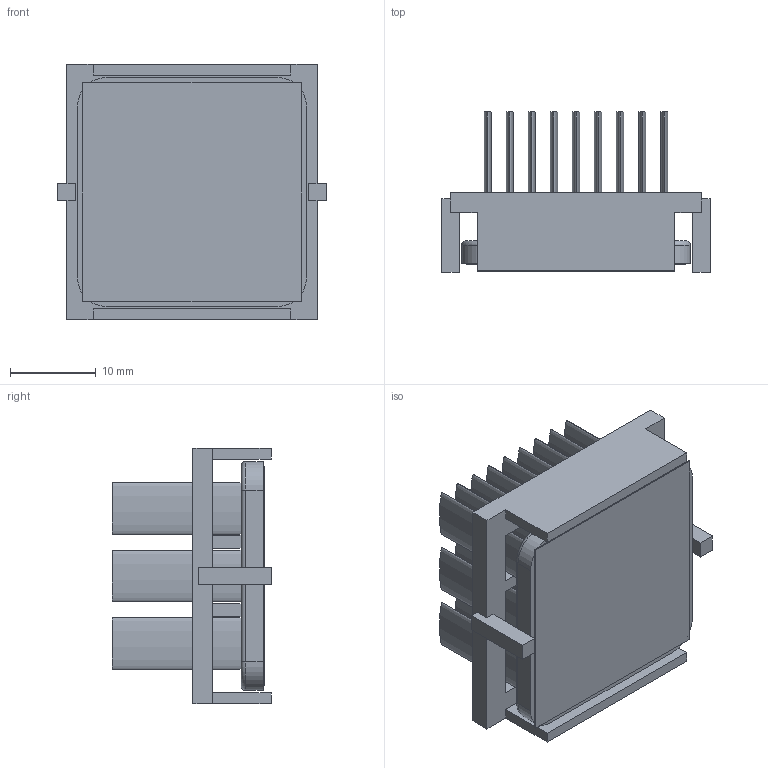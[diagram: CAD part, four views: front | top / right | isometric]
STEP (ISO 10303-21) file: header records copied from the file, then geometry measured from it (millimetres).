
FILE_DESCRIPTION (( 'STEP AP214' ), '1' );
FILE_NAME ('INM27001-18W_2.6+O.STEP', '2023-02-17T18:20:22', ( '' ), ( '' ), 'SwSTEP 2.0', 'SolidWorks 2020', '' );
FILE_SCHEMA (( 'AUTOMOTIVE_DESIGN' ));
Length unit declared in the file: inch
Products named in the file (1): INM27001-18W_2.6+O
Bounding box: 31.2 x 18.6 x 29.7 mm (x, y, z)
Volume: 4893.9 mm3; surface area: 10135.2 mm2
Topology: 3 solids, 3 shells, 159 faces, 370 edges, 244 vertices
Faces by surface type: plane 93, bspline 54, cylinder 8, torus 4
Entity records: 6735 total; most frequent: CARTESIAN_POINT 1476, ORIENTED_EDGE 740, DIRECTION 494, EDGE_CURVE 370, VERTEX_POINT 244, LINE 242, VECTOR 242, EDGE_LOOP 188
